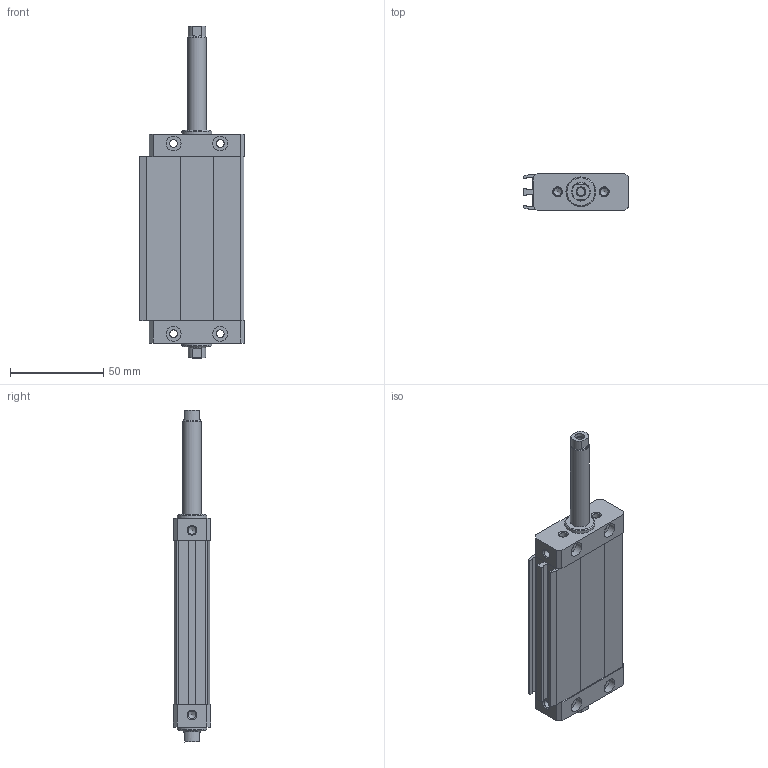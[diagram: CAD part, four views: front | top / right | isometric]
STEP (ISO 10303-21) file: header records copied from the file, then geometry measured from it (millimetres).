
FILE_DESCRIPTION((''),'2;1');
FILE_NAME('I:\Area Tecnica\Disegni\VARIE-3D\Componenti\1370 - CPO\1370_##_0000_03\1370_25_0050_03-01.iam.step','2010-12-16T10:52:45',(''),(''),'Autodesk Inventor 2011','Autodesk Inventor 2011','');
FILE_SCHEMA(('AUTOMOTIVE_DESIGN { 1 0 10303 214 1 1 1 1 }'));
Length unit declared in the file: millimetre
Products named in the file (5): 1370_25_0050_03-01; 1370_05_25_0000; 1370_06_25_0050; 1370_08_25_0000; 1370_3_25_0050
Assembly tree (4 placements, depth 2):
  1370_25_0050_03-01
    1370_05_25_0000
    1370_06_25_0050
    1370_08_25_0000
    1370_3_25_0050
Bounding box: 56.25 x 20 x 178 mm (x, y, z)
Volume: 91627 mm3; surface area: 44934.6 mm2
Topology: 4 solids, 4 shells, 158 faces, 378 edges, 238 vertices
Faces by surface type: plane 90, cylinder 48, cone 20
Full cylindrical faces by diameter (mm): 4.2 x22, 5.2 x2, 8 x8, 9.5 x2, 10 x4, 16 x2
Entity records: 4480 total; most frequent: DIRECTION 750, CARTESIAN_POINT 695, ORIENTED_EDGE 608, EDGE_CURVE 304, AXIS2_PLACEMENT_3D 279, EDGE_LOOP 250, VERTEX_POINT 224, VECTOR 192
